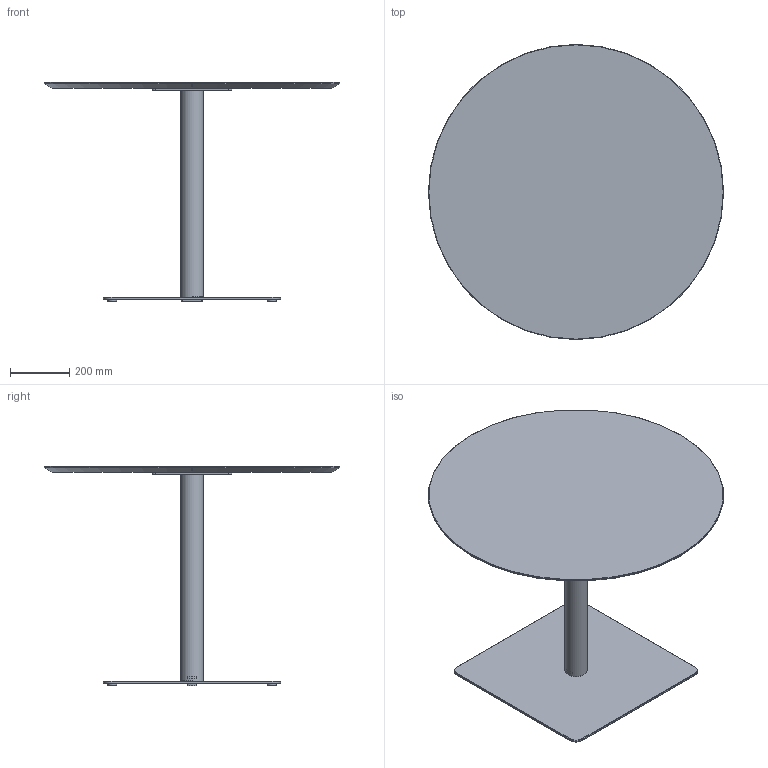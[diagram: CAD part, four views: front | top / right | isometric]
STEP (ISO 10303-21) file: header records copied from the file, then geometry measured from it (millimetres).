
FILE_DESCRIPTION( ('This file contains a STEP AP42 implementation' ,'as created by ZW3D STEP Interface translator.') ,'2;1' );
FILE_NAME( 'Henri - B_Carré - F1 - M5 - 1000 x 1000 x 750.stp' ,'24 912.162811', (''), ('ZWCAD Software Co.'), 'Version 1.0', 'ZW3D to STEP translator', '' );
FILE_SCHEMA(('AUTOMOTIVE_DESIGN { 1 0 10303 214 1 1 1 1 }'));
Length unit declared in the file: millimetre
Products named in the file (14): 0; PIED BISTROT PARAMETRIQUE_; COLONNE ACIER Ø76 V.02_; TUB-D076-02_; PLA-R76B-01_; CROIX ACIER 370 V.02_; CRX-X370-02_; SOCLE ACIER L 600x600 V.02_; SCL-R600-02_; PLA-R30A-01_; PLA-R30A-01; WUERTH 0276063020 Euro-screw 6.3x2 Verzinkt_; PLATEAU BISTROT PARAMETRIQUE_; insert_m6_13_
Assembly tree (22 placements, depth 3):
  0
  PIED BISTROT PARAMETRIQUE_
    COLONNE ACIER Ø76 V.02_
      TUB-D076-02_
      PLA-R76B-01_  x2
    CROIX ACIER 370 V.02_
      CRX-X370-02_
    SOCLE ACIER L 600x600 V.02_
      SCL-R600-02_
      PLA-R30A-01_
      PLA-R30A-01  x3
    WUERTH 0276063020 Euro-screw 6.3x2 Verzinkt_
    PLATEAU BISTROT PARAMETRIQUE_
      insert_m6_13_  x8
Bounding box: 1000 x 1000 x 744 mm (x, y, z)
Volume: 18922516 mm3; surface area: 2853308.7 mm2
Topology: 19 solids, 19 shells, 537 faces, 1310 edges, 822 vertices
Faces by surface type: plane 262, bspline 121, cylinder 98, cone 55, torus 1
Full cylindrical faces by diameter (mm): 4.88 x1, 6 x8, 6.3 x1, 8 x45, 12 x2, 14 x2, 30 x4, 72 x1, 76 x1
Entity records: 12310 total; most frequent: CARTESIAN_POINT 3396, ORIENTED_EDGE 1624, DIRECTION 1519, EDGE_CURVE 812, VERTEX_POINT 518, VECTOR 513, LINE 513, AXIS2_PLACEMENT_3D 503
